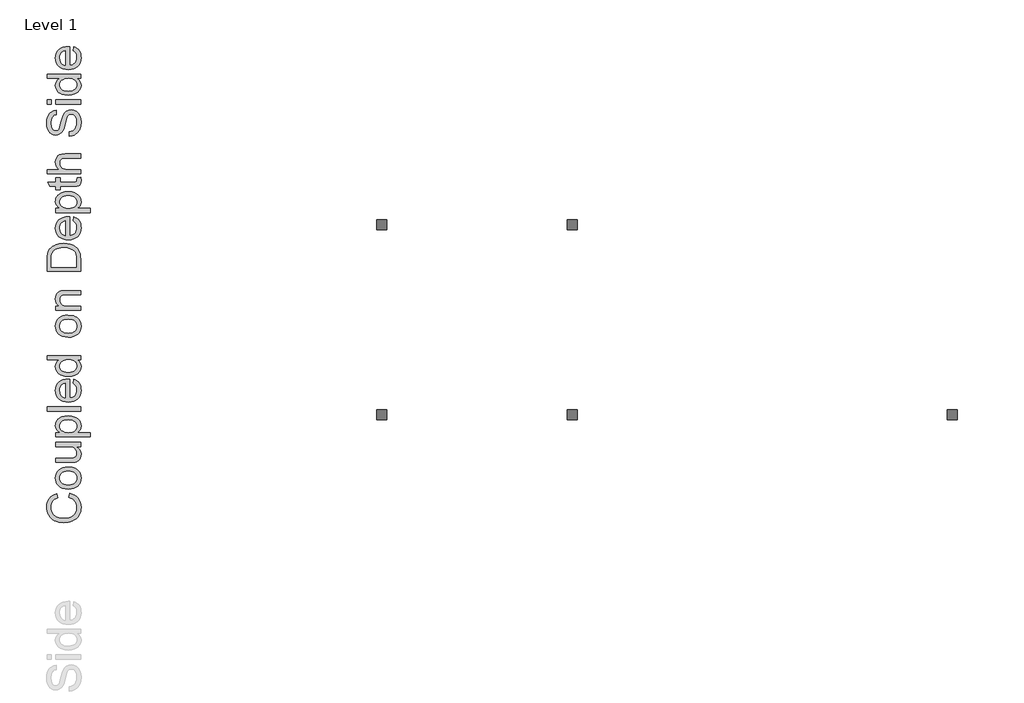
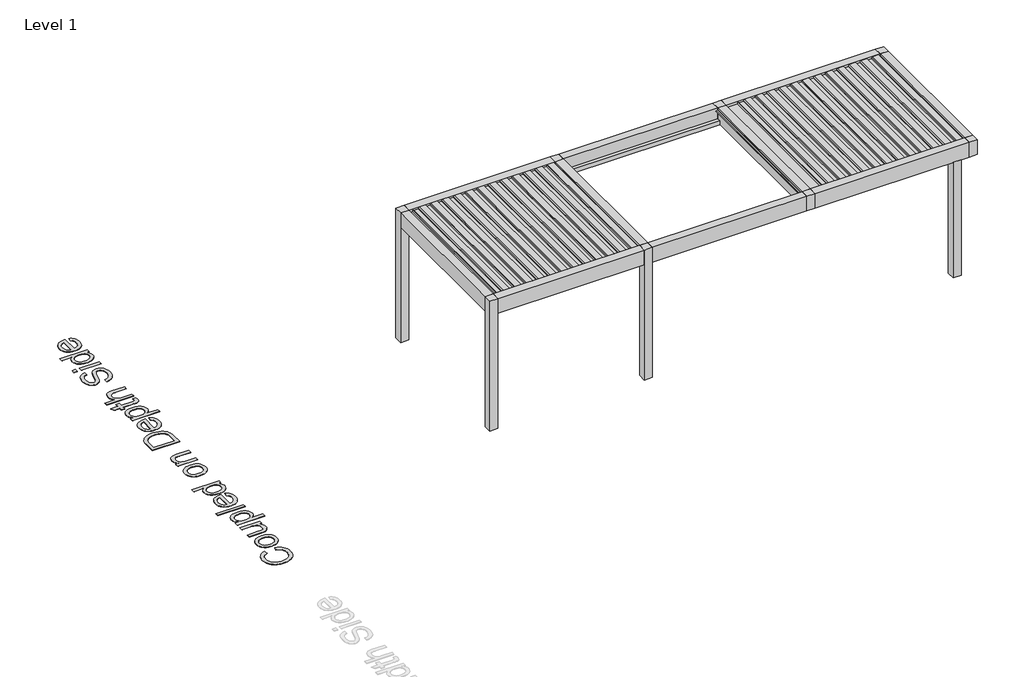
# One storey, part 44 of 80: 2 proxies.
"""IFC4 building model written with IfcOpenShell, lengths in millimetres."""

from ifc_helpers import new_model, si_unit, origin, origin_with_axes, place, context, project, spatial, polyline, outline, extrude, transform, mapped, element, save
from components import generic_models_f69b2891

model = new_model("IFC4")

# Units and contexts
model_context = context("Model", 3, world=origin())
ifc_project = project(units=[si_unit("LENGTHUNIT", "METRE", prefix="MILLI")], contexts=[model_context])

# Site, building, storey
site = spatial("IfcSite", under=ifc_project)
building = spatial("IfcBuilding", under=site)
storey = spatial("IfcBuildingStorey", under=building, Name="Level 1", Elevation=0.0)

# Proxies
placement = place(None, origin())
generic_models_shape = generic_models_f69b2891(model_context)
element("IfcBuildingElementProxy", 1, Name="Renson_Amani_Patio_Cover : Renson_Amani_Patio_Cover", ObjectType="Renson_Amani_Patio_Cover : Renson_Amani_Patio_Cover", at=placement, inside=storey, context=model_context, shape_type="MappedRepresentation", body=[
    mapped(generic_models_shape, transform((48653.165057, 55028.5861401, 0.0), x_axis=(1.0, 0.0, 0.0), y_axis=(0.0, 1.0, 0.0), z_axis=(0.0, 0.0, 1.0))),
])
element("IfcBuildingElementProxy", 2, Name="500mm Arial", ObjectType="500mm Arial", at=placement, inside=storey, context=model_context, shape_type="SweptSolid", body=[
    extrude(outline(polyline([(42534.4472638, 52366.9601072), (42550.6340716, 52429.7453011), (42589.6793805, 52417.3216195), (42623.7966034, 52400.7745939), (42652.9857405, 52380.1042243), (42677.2467916, 52355.3105107), (42696.3191738, 52326.9529402), (42709.942304, 52295.5910002), (42718.116182, 52261.2246904), (42720.8408081, 52223.8540111), (42718.779136, 52185.5674589), (42712.59412, 52151.0287045), (42702.2857599, 52120.2377479), (42687.8540558, 52093.1945891), (42669.5136055, 52069.5275141), (42647.4790069, 52048.8648087), (42621.7502598, 52031.206473), (42592.3273644, 52016.5525068), (42560.4825792, 52005.0446982), (42527.4881628, 51996.8248348), (42493.3441151, 51991.8929168), (42458.0504362, 51990.2489442), (42420.1815833, 51992.1075147), (42384.8112623, 51997.6832261), (42351.9394732, 52006.9760786), (42321.566216, 52019.9860721), (42294.1934963, 52036.4219667), (42270.3233197, 52055.9925224), (42249.9556863, 52078.6977393), (42233.0905961, 52104.5376173), (42219.8660048, 52132.6346047), (42210.4198682, 52162.1111496), (42204.7521862, 52192.9672519), (42202.8629589, 52225.2029118), (42205.3078413, 52261.1135594), (42212.6424886, 52294.0428301), (42224.8669007, 52323.9907238), (42241.9810777, 52350.9572404), (42263.5328312, 52374.497856), (42289.0699731, 52394.1680465), (42318.5925032, 52409.9678117), (42352.1004216, 52421.8971518), (42367.060956, 52359.111958), (42342.3707092, 52349.2251294), (42321.2749761, 52337.3456066), (42303.7737566, 52323.4733897), (42289.8670507, 52307.6084787), (42279.2712828, 52289.658903), (42271.7028772, 52269.5326922), (42267.1618338, 52247.2298462), (42265.6481527, 52222.7503651), (42267.3266143, 52194.5843999), (42272.3619991, 52168.824996), (42280.7543071, 52145.4721535), (42292.5035383, 52124.5258724), (42307.0808624, 52106.2505679), (42323.9574489, 52090.9106551), (42343.1332979, 52078.5061341), (42364.6084094, 52069.0370048), (42410.563002, 52057.0348547), (42457.9278088, 52053.034138), (42515.9305368, 52057.7706187), (42566.0851154, 52071.9800608), (42587.7403358, 52082.771266), (42606.4754928, 52096.1989588), (42622.2905865, 52112.2631392), (42635.1856169, 52130.9638073), (42652.3381149, 52172.6417717), (42658.0556142, 52217.6000172), (42656.1089053, 52244.8960948), (42650.2687787, 52270.0078731), (42640.5352342, 52292.935352), (42626.908272, 52313.6785316), (42609.4492056, 52331.7469025), (42588.2193488, 52346.6499554), (42563.2187015, 52358.3876903), (42534.4472638, 52366.9601072)])), origin_with_axes(), (0.0, 0.0, 1.0), 5.0),
    extrude(outline(polyline([(42528.5611519, 52492.5304949), (42480.790142, 52495.9257392), (42439.6256796, 52506.1114719), (42405.0677647, 52523.0876931), (42377.1163972, 52546.8544029), (42359.2511278, 52570.782061), (42346.4902211, 52597.1929225), (42338.8336771, 52626.0869876), (42336.2814958, 52657.4642561), (42339.3893322, 52692.1026452), (42348.7128415, 52723.4224321), (42364.2520237, 52751.4236169), (42386.0068788, 52776.1061995), (42413.2416427, 52796.2515709), (42445.2205516, 52810.6411218), (42481.9436053, 52819.2748524), (42523.410804, 52822.1527626), (42586.8397913, 52817.0637283), (42612.8751067, 52810.7024355), (42635.1243032, 52801.7966255), (42654.3423053, 52790.4574294), (42671.2840376, 52776.7959783), (42685.9495001, 52760.812272), (42698.3386927, 52742.5063106), (42715.2152792, 52701.7787081), (42720.8408081, 52657.4642561), (42717.7444679, 52622.3200292), (42708.4554476, 52590.7090024), (42692.9737469, 52562.6311755), (42671.299366, 52538.0865486), (42643.8001869, 52518.1557751), (42610.8440915, 52503.9195083), (42572.4310798, 52495.3777483), (42528.5611519, 52492.5304949)]), holes=[polyline([(42528.4385246, 52555.3156888), (42558.892256, 52557.1321061), (42585.2609644, 52562.5813582), (42607.5446499, 52571.6634449), (42625.7433123, 52584.3783664), (42639.8799444, 52599.8447386), (42649.9775387, 52617.1811776), (42656.0360954, 52636.3876834), (42658.0556142, 52657.4642561), (42656.024599, 52678.4335298), (42649.9315535, 52697.5633936), (42639.7764776, 52714.8538473), (42625.5593713, 52730.3048911), (42607.1806, 52743.0198126), (42584.5405289, 52752.1018993), (42557.639158, 52757.5511514), (42526.4764873, 52759.3675687), (42496.9884461, 52757.5396551), (42471.3095164, 52752.0559141), (42449.4396982, 52742.9163458), (42431.3789915, 52730.1209501), (42417.2423594, 52714.6124248), (42407.1447651, 52697.3334673), (42401.0862085, 52678.2840777), (42399.0666896, 52657.4642561), (42401.0785443, 52636.3876834), (42407.1141083, 52617.1811776), (42417.1733816, 52599.8447386), (42431.2563642, 52584.3783664), (42449.4013772, 52571.6634449), (42471.6467416, 52562.5813582), (42497.9924574, 52557.1321061), (42528.4385246, 52555.3156888)])]), origin_with_axes(), (0.0, 0.0, 1.0), 5.0),
    extrude(outline(polyline([(42712.9926588, 53128.2305826), (42649.5943283, 53128.2305826), (42680.7646632, 53105.5138694), (42703.0291881, 53079.0570226), (42716.3879031, 53048.8600421), (42720.8408081, 53014.9229281), (42717.7138111, 52984.3427372), (42708.3328202, 52955.8778678), (42694.2306771, 52931.996195), (42676.9402233, 52915.1655937), (42655.9402927, 52903.8378939), (42630.7097192, 52896.4649256), (42572.3391093, 52892.7861057), (42344.129645, 52892.7861057), (42344.129645, 52955.5712995), (42542.7859224, 52955.5712995), (42606.7973896, 52959.3727468), (42628.1498737, 52968.5238114), (42644.3826667, 52984.2047815), (42654.6373773, 53005.3733246), (42658.0556142, 53030.9871085), (42654.5607353, 53058.0724204), (42644.0760984, 53083.4102928), (42627.5673939, 53104.3029245), (42606.0003119, 53118.052514), (42576.4624534, 53125.6860654), (42536.0414192, 53128.2305826), (42344.129645, 53128.2305826), (42344.129645, 53191.0157764), (42712.9926588, 53191.0157764), (42712.9926588, 53128.2305826)])), origin_with_axes(), (0.0, 0.0, 1.0), 5.0),
    extrude(outline(polyline([(42854.259345, 53277.345418), (42344.129645, 53277.345418), (42344.129645, 53340.1306118), (42405.6885655, 53340.1306118), (42375.3229725, 53360.6093762), (42353.6332632, 53383.5406872), (42340.6194376, 53410.2734455), (42336.2814958, 53442.1565518), (42337.799009, 53464.0531947), (42342.3515487, 53484.6162654), (42349.9391148, 53503.8457639), (42360.5617075, 53521.7416901), (42373.943415, 53537.9131695), (42389.8083261, 53551.9693274), (42428.9877586, 53573.7356787), (42475.2489195, 53586.8874601), (42525.7407233, 53591.2713872), (42579.4361662, 53586.3203087), (42627.460095, 53571.4670731), (42648.735937, 53560.4459417), (42667.3752914, 53547.1868614), (42683.3781582, 53531.6898324), (42696.7445374, 53513.9548545), (42714.8167404, 53475.2506029), (42720.8408081, 53434.5536572), (42716.8094345, 53405.690249), (42704.7153139, 53379.9231809), (42686.4591699, 53357.8655897), (42663.9417261, 53340.1306118), (42854.259345, 53340.1306118), (42854.259345, 53277.345418)]), holes=[polyline([(42531.5042079, 53340.1306118), (42561.762502, 53341.8282339), (42587.7901531, 53346.9211003), (42609.5871614, 53355.4092109), (42627.1535266, 53367.2925658), (42640.6731899, 53381.5978104), (42650.3300923, 53397.3515905), (42656.1242337, 53414.5539058), (42658.0556142, 53433.2047566), (42656.0552559, 53452.1238546), (42650.0541808, 53469.6404025), (42640.0523891, 53485.7544003), (42626.0498806, 53500.465848), (42607.8473861, 53512.7247491), (42585.245636, 53521.481107), (42558.2446304, 53526.7349217), (42526.8443693, 53528.4861933), (42496.8466583, 53526.7770749), (42470.8649923, 53521.6497196), (42448.8993715, 53513.1041274), (42430.9497959, 53501.1402984), (42417.0009369, 53486.8005648), (42407.0374662, 53471.1272589), (42401.0593838, 53454.1203808), (42399.0666896, 53435.7799305), (42401.1858432, 53417.4969618), (42407.5433039, 53400.2946464), (42418.1390718, 53384.1729844), (42432.9731468, 53369.1319758), (42451.8462596, 53356.443879), (42474.5591407, 53347.3809528), (42501.1117901, 53341.943197), (42531.5042079, 53340.1306118)])]), origin_with_axes(), (0.0, 0.0, 1.0), 5.0),
    extrude(outline(polyline([(42712.9926588, 53661.9047302), (42210.7111081, 53661.9047302), (42210.7111081, 53724.6899241), (42712.9926588, 53724.6899241), (42712.9926588, 53661.9047302)])), origin_with_axes(), (0.0, 0.0, 1.0), 5.0),
    extrude(outline(polyline([(42603.1185696, 54077.1208755), (42610.9667188, 54138.679796), (42635.6224767, 54129.2413236), (42657.3505071, 54116.4995774), (42676.1508099, 54100.4545574), (42692.0233851, 54081.1062638), (42704.6310077, 54058.6539657), (42713.6364523, 54033.2969328), (42719.0397191, 54005.0351649), (42720.8408081, 53973.8686622), (42717.7329716, 53934.9114917), (42708.4094623, 53900.2002926), (42692.8702801, 53869.7350649), (42671.115425, 53843.5158085), (42643.7503696, 53822.4315717), (42611.3805861, 53807.3714025), (42574.0060746, 53798.335301), (42531.6268352, 53795.3232672), (42487.8105567, 53798.3659578), (42449.1906115, 53807.4940298), (42415.7669994, 53822.7074832), (42387.5397204, 53844.0063179), (42365.1142471, 53870.1565964), (42349.0960519, 53899.9243811), (42339.4851348, 53933.3096722), (42336.2814958, 53970.3124695), (42339.4774706, 54006.1234825), (42349.0653951, 54038.5085944), (42365.0452693, 54067.4678052), (42387.4170931, 54093.0011149), (42415.5830584, 54113.8439292), (42448.9453568, 54128.7316537), (42487.5039884, 54137.6642884), (42531.2589532, 54140.6418333), (42548.181525, 54140.2739513), (42548.181525, 53858.108461), (42573.2358217, 53861.7451278), (42595.1784499, 53868.9763083), (42614.0094095, 53879.8020024), (42629.7287006, 53894.2222102), (42642.1217253, 53911.439854), (42650.9738858, 53930.6578561), (42656.2851821, 53951.8762166), (42658.0556142, 53975.0949355), (42654.7753331, 54008.5108834), (42644.9344897, 54036.653856), (42627.9199474, 54059.5238534), (42603.1185696, 54077.1208755)]), holes=[polyline([(42485.3963312, 53858.108461), (42485.3963312, 54077.8566395), (42452.2256379, 54069.3646967), (42428.4972492, 54052.7180365), (42415.6213794, 54035.5961953), (42406.4243295, 54016.1137779), (42400.9060996, 53994.2707845), (42399.0666896, 53970.0672149), (42404.9374731, 53927.745457), (42412.2759525, 53909.3321967), (42422.5498236, 53892.7506822), (42435.2839056, 53878.8363122), (42450.0030175, 53868.4244853), (42466.7071594, 53861.5152016), (42485.3963312, 53858.108461)])]), origin_with_axes(), (0.0, 0.0, 1.0), 5.0),
    extrude(outline(polyline([(42712.9926588, 54431.0233548), (42653.7636576, 54431.0233548), (42683.1099109, 54412.2383805), (42704.0715205, 54389.4833462), (42716.6484862, 54362.7582521), (42720.8408081, 54332.0630981), (42714.7707551, 54291.4734513), (42696.5605964, 54254.3173698), (42667.4825903, 54222.8634592), (42628.8089956, 54199.3803252), (42582.1033106, 54184.7570159), (42528.9290339, 54179.8825795), (42476.4138791, 54184.3738055), (42428.9877586, 54197.8474836), (42407.8575365, 54207.94891), (42389.3484736, 54220.2882853), (42373.4605699, 54234.8656093), (42360.1938255, 54251.6808822), (42342.2595782, 54289.6493698), (42336.2814958, 54331.8178435), (42340.558124, 54362.5359901), (42353.3880085, 54389.697944), (42373.0543669, 54412.7212256), (42397.8404163, 54431.0233548), (42210.7111081, 54431.0233548), (42210.7111081, 54493.8085487), (42712.9926588, 54493.8085487), (42712.9926588, 54431.0233548)]), holes=[polyline([(42528.6837793, 54242.6677733), (42559.1298465, 54244.4382054), (42585.4755623, 54249.7495017), (42607.7209267, 54258.6016622), (42625.8659396, 54270.9946869), (42639.9489223, 54285.794273), (42650.0081956, 54301.8661177), (42656.0437596, 54319.2102209), (42658.0556142, 54337.8265827), (42656.1357301, 54356.5310829), (42650.3760776, 54373.7717193), (42640.7766568, 54389.548492), (42627.3374676, 54403.8614009), (42609.9512112, 54415.7447557), (42588.5105887, 54424.2328663), (42563.0156, 54429.3257327), (42533.4662452, 54431.0233548), (42501.069637, 54429.2950759), (42473.2868821, 54424.110239), (42450.1179807, 54415.4688442), (42431.5629325, 54403.3708915), (42417.3458263, 54388.7437501), (42407.1907503, 54372.5147892), (42401.0977048, 54354.6840087), (42399.0666896, 54335.2514088), (42401.0172306, 54316.267165), (42406.8688536, 54298.9230617), (42416.6215586, 54283.2190991), (42430.2753455, 54269.155277), (42448.1291186, 54257.5669941), (42470.4817819, 54249.2896492), (42497.3333355, 54244.3232423), (42528.6837793, 54242.6677733)])]), origin_with_axes(), (0.0, 0.0, 1.0), 5.0),
    extrude(outline(polyline([(42528.5611519, 54768.4937717), (42480.790142, 54771.889016), (42439.6256796, 54782.0747487), (42405.0677647, 54799.05097), (42377.1163972, 54822.8176797), (42359.2511278, 54846.7453378), (42346.4902211, 54873.1561994), (42338.8336771, 54902.0502644), (42336.2814958, 54933.4275329), (42339.3893322, 54968.065922), (42348.7128415, 54999.385709), (42364.2520237, 55027.3868937), (42386.0068788, 55052.0694764), (42413.2416427, 55072.2148477), (42445.2205516, 55086.6043987), (42481.9436053, 55095.2381292), (42523.410804, 55098.1160394), (42586.8397913, 55093.0270052), (42612.8751067, 55086.6657123), (42635.1243032, 55077.7599024), (42654.3423053, 55066.4207063), (42671.2840376, 55052.7592551), (42685.9495001, 55036.7755488), (42698.3386927, 55018.4695875), (42715.2152792, 54977.7419849), (42720.8408081, 54933.4275329), (42717.7444679, 54898.2833061), (42708.4554476, 54866.6722792), (42692.9737469, 54838.5944523), (42671.299366, 54814.0498255), (42643.8001869, 54794.119052), (42610.8440915, 54779.8827852), (42572.4310798, 54771.3410251), (42528.5611519, 54768.4937717)]), holes=[polyline([(42528.4385246, 54831.2789656), (42558.892256, 54833.0953829), (42585.2609644, 54838.544635), (42607.5446499, 54847.6267217), (42625.7433123, 54860.3416432), (42639.8799444, 54875.8080154), (42649.9775387, 54893.1444544), (42656.0360954, 54912.3509603), (42658.0556142, 54933.4275329), (42656.024599, 54954.3968066), (42649.9315535, 54973.5266704), (42639.7764776, 54990.8171242), (42625.5593713, 55006.268168), (42607.1806, 55018.9830894), (42584.5405289, 55028.0651762), (42557.639158, 55033.5144282), (42526.4764873, 55035.3308456), (42496.9884461, 55033.5029319), (42471.3095164, 55028.0191909), (42449.4396982, 55018.8796226), (42431.3789915, 55006.084227), (42417.2423594, 54990.5757016), (42407.1447651, 54973.2967441), (42401.0862085, 54954.2473546), (42399.0666896, 54933.4275329), (42401.0785443, 54912.3509603), (42407.1141083, 54893.1444544), (42417.1733816, 54875.8080154), (42431.2563642, 54860.3416432), (42449.4013772, 54847.6267217), (42471.6467416, 54838.544635), (42497.9924574, 54833.0953829), (42528.4385246, 54831.2789656)])]), origin_with_axes(), (0.0, 0.0, 1.0), 5.0),
    extrude(outline(polyline([(42712.9926588, 55168.7493825), (42344.129645, 55168.7493825), (42344.129645, 55231.5345763), (42395.6331243, 55231.5345763), (42369.6667868, 55253.346913), (42351.1194029, 55279.5431767), (42339.9909726, 55310.1233676), (42336.2814958, 55345.0874855), (42339.270537, 55376.0355584), (42348.2376606, 55404.3778004), (42362.0638923, 55428.0142186), (42379.6302575, 55444.8448199), (42400.8907712, 55456.2644901), (42425.7994479, 55463.6681153), (42486.4999771, 55466.9790532), (42712.9926588, 55466.9790532), (42712.9926588, 55404.1938594), (42494.961263, 55404.1938594), (42462.495677, 55402.3851063), (42439.4110818, 55396.9588468), (42422.8717204, 55386.9493909), (42410.0418358, 55371.3910482), (42401.8104762, 55351.4487783), (42399.0666896, 55328.2875411), (42400.6071955, 55309.2228231), (42405.228713, 55291.51467), (42412.9312423, 55275.1630817), (42423.7147833, 55260.1680583), (42438.8056093, 55247.6409099), (42459.4299937, 55238.6929468), (42485.5879364, 55233.324169), (42517.2794374, 55231.5345763), (42712.9926588, 55231.5345763), (42712.9926588, 55168.7493825)])), origin_with_axes(), (0.0, 0.0, 1.0), 5.0),
    extrude(outline(polyline([(42712.9926588, 55757.3605748), (42210.7111081, 55757.3605748), (42210.7111081, 55930.6329945), (42212.5198612, 55982.4123853), (42217.9461207, 56020.273574), (42231.8949796, 56060.3113978), (42253.8759289, 56094.0952277), (42271.840833, 56112.7115895), (42292.1356564, 56128.8294194), (42314.7603991, 56142.4487174), (42339.7150611, 56153.5694836), (42395.694438, 56168.3767339), (42459.1540822, 56173.312484), (42513.0641229, 56169.9708892), (42560.5055718, 56159.9461048), (42600.8959492, 56144.679002), (42633.6527752, 56125.6104519), (42659.5118138, 56103.6601596), (42679.2088289, 56079.7478299), (42693.8168098, 56052.294636), (42704.4087456, 56019.721751), (42710.8466805, 55981.9678612), (42712.9926588, 55938.9716531), (42712.9926588, 55757.3605748)]), holes=[polyline([(42650.207465, 55820.1457686), (42650.207465, 55931.2461312), (42647.9388594, 55977.2007237), (42641.1330424, 56012.0575428), (42630.1885531, 56038.3611054), (42615.5039301, 56058.6559288), (42588.3266477, 56080.4682655), (42553.1479319, 56096.8543427), (42509.8144986, 56107.1090533), (42458.1730635, 56110.5272901), (42421.7220892, 56108.8526606), (42389.7470124, 56103.8287721), (42362.2478333, 56095.4556247), (42339.2245517, 56083.7332182), (42320.1560017, 56069.6119145), (42304.5210169, 56054.0420755), (42292.3195973, 56037.0237011), (42283.5517431, 56018.5567913), (42276.0101622, 55982.4430422), (42273.4963019, 55929.5293485), (42273.4963019, 55820.1457686), (42650.207465, 55820.1457686)])]), origin_with_axes(), (0.0, 0.0, 1.0), 5.0),
    extrude(outline(polyline([(42603.1185696, 56510.0471369), (42610.9667188, 56571.6060574), (42635.6224767, 56562.167585), (42657.3505071, 56549.4258388), (42676.1508099, 56533.3808189), (42692.0233851, 56514.0325252), (42704.6310077, 56491.5802272), (42713.6364523, 56466.2231942), (42719.0397191, 56437.9614264), (42720.8408081, 56406.7949236), (42717.7329716, 56367.8377531), (42708.4094623, 56333.1265541), (42692.8702801, 56302.6613263), (42671.115425, 56276.44207), (42643.7503696, 56255.3578331), (42611.3805861, 56240.2976639), (42574.0060746, 56231.2615624), (42531.6268352, 56228.2495286), (42487.8105567, 56231.2922193), (42449.1906115, 56240.4202913), (42415.7669994, 56255.6337446), (42387.5397204, 56276.9325793), (42365.1142471, 56303.0828578), (42349.0960519, 56332.8506426), (42339.4851348, 56366.2359336), (42336.2814958, 56403.238731), (42339.4774706, 56439.0497439), (42349.0653951, 56471.4348558), (42365.0452693, 56500.3940666), (42387.4170931, 56525.9273764), (42415.5830584, 56546.7701907), (42448.9453568, 56561.6579151), (42487.5039884, 56570.5905498), (42531.2589532, 56573.5680947), (42548.181525, 56573.2002127), (42548.181525, 56291.0347224), (42573.2358217, 56294.6713893), (42595.1784499, 56301.9025697), (42614.0094095, 56312.7282638), (42629.7287006, 56327.1484716), (42642.1217253, 56344.3661154), (42650.9738858, 56363.5841176), (42656.2851821, 56384.8024781), (42658.0556142, 56408.0211969), (42654.7753331, 56441.4371448), (42644.9344897, 56469.5801174), (42627.9199474, 56492.4501148), (42603.1185696, 56510.0471369)]), holes=[polyline([(42485.3963312, 56291.0347224), (42485.3963312, 56510.7829009), (42452.2256379, 56502.2909582), (42428.4972492, 56485.6442979), (42415.6213794, 56468.5224567), (42406.4243295, 56449.0400394), (42400.9060996, 56427.1970459), (42399.0666896, 56402.9934763), (42404.9374731, 56360.6717184), (42412.2759525, 56342.2584582), (42422.5498236, 56325.6769437), (42435.2839056, 56311.7625736), (42450.0030175, 56301.3507467), (42466.7071594, 56294.441463), (42485.3963312, 56291.0347224)])]), origin_with_axes(), (0.0, 0.0, 1.0), 5.0),
    extrude(outline(polyline([(42854.259345, 56636.3532886), (42344.129645, 56636.3532886), (42344.129645, 56699.1384824), (42405.6885655, 56699.1384824), (42375.3229725, 56719.6172468), (42353.6332632, 56742.5485579), (42340.6194376, 56769.2813162), (42336.2814958, 56801.1644224), (42337.799009, 56823.0610653), (42342.3515487, 56843.624136), (42349.9391148, 56862.8536345), (42360.5617075, 56880.7495607), (42373.943415, 56896.9210401), (42389.8083261, 56910.977198), (42428.9877586, 56932.7435494), (42475.2489195, 56945.8953307), (42525.7407233, 56950.2792578), (42579.4361662, 56945.3281793), (42627.460095, 56930.4749437), (42648.735937, 56919.4538123), (42667.3752914, 56906.194732), (42683.3781582, 56890.697703), (42696.7445374, 56872.9627251), (42714.8167404, 56834.2584736), (42720.8408081, 56793.5615279), (42716.8094345, 56764.6981197), (42704.7153139, 56738.9310516), (42686.4591699, 56716.8734603), (42663.9417261, 56699.1384824), (42854.259345, 56699.1384824), (42854.259345, 56636.3532886)]), holes=[polyline([(42531.5042079, 56699.1384824), (42561.762502, 56700.8361046), (42587.7901531, 56705.9289709), (42609.5871614, 56714.4170815), (42627.1535266, 56726.3004364), (42640.6731899, 56740.6056811), (42650.3300923, 56756.3594611), (42656.1242337, 56773.5617765), (42658.0556142, 56792.2126272), (42656.0552559, 56811.1317252), (42650.0541808, 56828.6482731), (42640.0523891, 56844.762271), (42626.0498806, 56859.4737187), (42607.8473861, 56871.7326197), (42585.245636, 56880.4889776), (42558.2446304, 56885.7427924), (42526.8443693, 56887.494064), (42496.8466583, 56885.7849455), (42470.8649923, 56880.6575902), (42448.8993715, 56872.111998), (42430.9497959, 56860.148169), (42417.0009369, 56845.8084354), (42407.0374662, 56830.1351295), (42401.0593838, 56813.1282515), (42399.0666896, 56794.7878012), (42401.1858432, 56776.5048324), (42407.5433039, 56759.3025171), (42418.1390718, 56743.180855), (42432.9731468, 56728.1398464), (42451.8462596, 56715.4517497), (42474.5591407, 56706.3888234), (42501.1117901, 56700.9510677), (42531.5042079, 56699.1384824)])]), origin_with_axes(), (0.0, 0.0, 1.0), 5.0),
    extrude(outline(polyline([(42660.6307882, 57154.3311378), (42714.8320688, 57162.179287), (42720.8408081, 57115.213019), (42718.2349773, 57085.0773522), (42710.4174849, 57062.6058937), (42698.3693495, 57046.7256542), (42683.0715899, 57036.3636447), (42656.7986841, 57030.6614737), (42611.8251102, 57028.7607501), (42406.9148388, 57028.7607501), (42406.9148388, 56981.6718547), (42344.129645, 56981.6718547), (42344.129645, 57028.7607501), (42254.4890655, 57028.7607501), (42217.5782387, 57091.5459439), (42344.129645, 57091.5459439), (42344.129645, 57154.3311378), (42406.9148388, 57154.3311378), (42406.9148388, 57091.5459439), (42609.9857002, 57091.5459439), (42642.3593158, 57094.8568819), (42653.8249713, 57105.5867734), (42658.0556142, 57126.9852428), (42660.6307882, 57154.3311378)])), origin_with_axes(), (0.0, 0.0, 1.0), 5.0),
    extrude(outline(polyline([(42712.9926588, 57217.1163316), (42210.7111081, 57217.1163316), (42210.7111081, 57279.9015255), (42395.3878697, 57279.9015255), (42369.5288311, 57302.9631281), (42351.0580892, 57328.8604877), (42339.9756441, 57357.5936043), (42336.2814958, 57389.162478), (42340.3128693, 57427.0849804), (42352.4069899, 57459.6731938), (42371.6134957, 57485.332963), (42396.982025, 57502.4701326), (42431.838844, 57512.1270349), (42479.5102192, 57515.3460024), (42712.9926588, 57515.3460024), (42712.9926588, 57452.5608085), (42486.0094678, 57452.5608085), (42446.707408, 57447.5637448), (42431.7008883, 57441.3174151), (42419.7907087, 57432.5725535), (42410.7239503, 57421.5360936), (42404.2476944, 57408.4149691), (42399.0666896, 57375.9187262), (42402.5615686, 57349.3852373), (42413.0462054, 57324.4765606), (42429.5089247, 57303.844512), (42450.9380509, 57290.1409077), (42479.4182487, 57282.461371), (42517.0341827, 57279.9015255), (42712.9926588, 57279.9015255), (42712.9926588, 57217.1163316)])), origin_with_axes(), (0.0, 0.0, 1.0), 5.0),
    extrude(outline(polyline([(42540.3333758, 57782.1830762), (42540.3333758, 57844.9682701), (42575.1748664, 57852.1726258), (42603.1798833, 57865.2017798), (42625.4060871, 57885.52726), (42642.9111388, 57914.6205945), (42654.2694954, 57950.1825207), (42658.0556142, 57989.9137762), (42655.1892003, 58024.8932225), (42646.5899587, 58055.5193986), (42632.9783249, 58080.3361049), (42615.0747345, 58097.8871418), (42594.519328, 58108.3257934), (42572.952246, 58111.8053439), (42551.936987, 58109.1995131), (42533.7728135, 58101.3820207), (42518.2757845, 58085.5017813), (42505.2619589, 58058.7077093), (42481.2883155, 57967.2890335), (42465.4234045, 57907.278283), (42450.3249143, 57868.8805998), (42429.2023564, 57837.6259586), (42403.6039009, 57815.4763968), (42374.0813708, 57802.2786302), (42341.186589, 57797.8793747), (42304.4137179, 57803.3209625), (42270.1240503, 57819.6457261), (42254.5963644, 57831.7819998), (42241.0613727, 57846.4244696), (42219.9694716, 57883.2279976), (42207.139587, 57927.4044938), (42202.8629589, 57976.3021423), (42207.3388565, 58029.2771497), (42220.7665493, 58075.630281), (42242.8701258, 58113.7060675), (42257.0719037, 58129.0191556), (42273.3736746, 58141.8490402), (42310.3764719, 58159.6606601), (42351.9777942, 58166.7423885), (42351.9777942, 58103.9571947), (42331.9435539, 58099.7572086), (42314.5151444, 58092.4302255), (42299.6925657, 58081.9762455), (42287.4758177, 58068.3952685), (42277.9262143, 58051.4343757), (42271.105069, 58030.8406481), (42265.6481527, 57978.754689), (42271.0437553, 57925.4424565), (42277.7882585, 57905.0633268), (42287.2305631, 57888.8688548), (42298.5812555, 57876.5294796), (42311.0509223, 57867.7156401), (42324.6395635, 57862.4273364), (42339.3471791, 57860.6645685), (42363.4741066, 57865.6616323), (42382.8798818, 57880.6528236), (42391.5097803, 57894.4177416), (42400.2316493, 57916.0921225), (42417.9512987, 57983.1692729), (42434.7819, 58052.3924017), (42449.466523, 58094.2696355), (42472.2445498, 58130.0614879), (42500.3568656, 58155.0314783), (42533.496902, 58169.7007729), (42571.3580907, 58174.5905377), (42610.0623423, 58168.9650089), (42646.4673314, 58152.0884224), (42677.7986146, 58124.6505569), (42701.2817487, 58087.3411912), (42715.9510432, 58042.4749162), (42720.8408081, 57992.3663228), (42715.5678328, 57930.8533875), (42708.9766137, 57904.1781108), (42699.748907, 57880.2236279), (42687.8693842, 57858.8443191), (42673.322717, 57839.8945642), (42656.1089053, 57823.3743634), (42636.2279492, 57809.2837165), (42614.323642, 57797.9330241), (42591.0397774, 57789.6326866), (42566.3763553, 57784.382704), (42540.3333758, 57782.1830762)])), origin_with_axes(), (0.0, 0.0, 1.0), 5.0),
    extrude(outline(polyline([(42273.4963019, 58260.9201793), (42210.7111081, 58260.9201793), (42210.7111081, 58323.7053731), (42273.4963019, 58323.7053731), (42273.4963019, 58260.9201793)])), origin_with_axes(), (0.0, 0.0, 1.0), 5.0),
    extrude(outline(polyline([(42712.9926588, 58260.9201793), (42344.129645, 58260.9201793), (42344.129645, 58323.7053731), (42712.9926588, 58323.7053731), (42712.9926588, 58260.9201793)])), origin_with_axes(), (0.0, 0.0, 1.0), 5.0),
    extrude(outline(polyline([(42712.9926588, 58645.4794916), (42653.7636576, 58645.4794916), (42683.1099109, 58626.6945172), (42704.0715205, 58603.939483), (42716.6484862, 58577.2143888), (42720.8408081, 58546.5192349), (42714.7707551, 58505.9295881), (42696.5605964, 58468.7735066), (42667.4825903, 58437.319596), (42628.8089956, 58413.8364619), (42582.1033106, 58399.2131526), (42528.9290339, 58394.3387162), (42476.4138791, 58398.8299422), (42428.9877586, 58412.3036203), (42407.8575365, 58422.4050468), (42389.3484736, 58434.744422), (42373.4605699, 58449.3217461), (42360.1938255, 58466.1370189), (42342.2595782, 58504.1055065), (42336.2814958, 58546.2739802), (42340.558124, 58576.9921268), (42353.3880085, 58604.1540808), (42373.0543669, 58627.1773623), (42397.8404163, 58645.4794916), (42210.7111081, 58645.4794916), (42210.7111081, 58708.2646854), (42712.9926588, 58708.2646854), (42712.9926588, 58645.4794916)]), holes=[polyline([(42528.6837793, 58457.12391), (42559.1298465, 58458.8943421), (42585.4755623, 58464.2056385), (42607.7209267, 58473.057799), (42625.8659396, 58485.4508237), (42639.9489223, 58500.2504098), (42650.0081956, 58516.3222544), (42656.0437596, 58533.6663577), (42658.0556142, 58552.2827195), (42656.1357301, 58570.9872197), (42650.3760776, 58588.2278561), (42640.7766568, 58604.0046287), (42627.3374676, 58618.3175376), (42609.9512112, 58630.2008925), (42588.5105887, 58638.6890031), (42563.0156, 58643.7818695), (42533.4662452, 58645.4794916), (42501.069637, 58643.7512126), (42473.2868821, 58638.5663757), (42450.1179807, 58629.924981), (42431.5629325, 58617.8270283), (42417.3458263, 58603.1998869), (42407.1907503, 58586.9709259), (42401.0977048, 58569.1401455), (42399.0666896, 58549.7075455), (42401.0172306, 58530.7233017), (42406.8688536, 58513.3791985), (42416.6215586, 58497.6752358), (42430.2753455, 58483.6114137), (42448.1291186, 58472.0231308), (42470.4817819, 58463.745786), (42497.3333355, 58458.779379), (42528.6837793, 58457.12391)])]), origin_with_axes(), (0.0, 0.0, 1.0), 5.0),
    extrude(outline(polyline([(42603.1185696, 59060.6956368), (42610.9667188, 59122.2545573), (42635.6224767, 59112.8160849), (42657.3505071, 59100.0743387), (42676.1508099, 59084.0293188), (42692.0233851, 59064.6810251), (42704.6310077, 59042.2287271), (42713.6364523, 59016.8716941), (42719.0397191, 58988.6099263), (42720.8408081, 58957.4434235), (42717.7329716, 58918.486253), (42708.4094623, 58883.775054), (42692.8702801, 58853.3098262), (42671.115425, 58827.0905699), (42643.7503696, 58806.006333), (42611.3805861, 58790.9461638), (42574.0060746, 58781.9100623), (42531.6268352, 58778.8980285), (42487.8105567, 58781.9407192), (42449.1906115, 58791.0687912), (42415.7669994, 58806.2822445), (42387.5397204, 58827.5810792), (42365.1142471, 58853.7313577), (42349.0960519, 58883.4991425), (42339.4851348, 58916.8844335), (42336.2814958, 58953.8872309), (42339.4774706, 58989.6982438), (42349.0653951, 59022.0833557), (42365.0452693, 59051.0425665), (42387.4170931, 59076.5758763), (42415.5830584, 59097.4186905), (42448.9453568, 59112.306415), (42487.5039884, 59121.2390497), (42531.2589532, 59124.2165946), (42548.181525, 59123.8487126), (42548.181525, 58841.6832223), (42573.2358217, 58845.3198891), (42595.1784499, 58852.5510696), (42614.0094095, 58863.3767637), (42629.7287006, 58877.7969715), (42642.1217253, 58895.0146153), (42650.9738858, 58914.2326175), (42656.2851821, 58935.450978), (42658.0556142, 58958.6696968), (42654.7753331, 58992.0856447), (42644.9344897, 59020.2286173), (42627.9199474, 59043.0986147), (42603.1185696, 59060.6956368)]), holes=[polyline([(42485.3963312, 58841.6832223), (42485.3963312, 59061.4314008), (42452.2256379, 59052.9394581), (42428.4972492, 59036.2927978), (42415.6213794, 59019.1709566), (42406.4243295, 58999.6885393), (42400.9060996, 58977.8455458), (42399.0666896, 58953.6419762), (42404.9374731, 58911.3202183), (42412.2759525, 58892.9069581), (42422.5498236, 58876.3254435), (42435.2839056, 58862.4110735), (42450.0030175, 58851.9992466), (42466.7071594, 58845.0899629), (42485.3963312, 58841.6832223)])]), origin_with_axes(), (0.0, 0.0, 1.0), 5.0),
])

save(model, "model.ifc")
